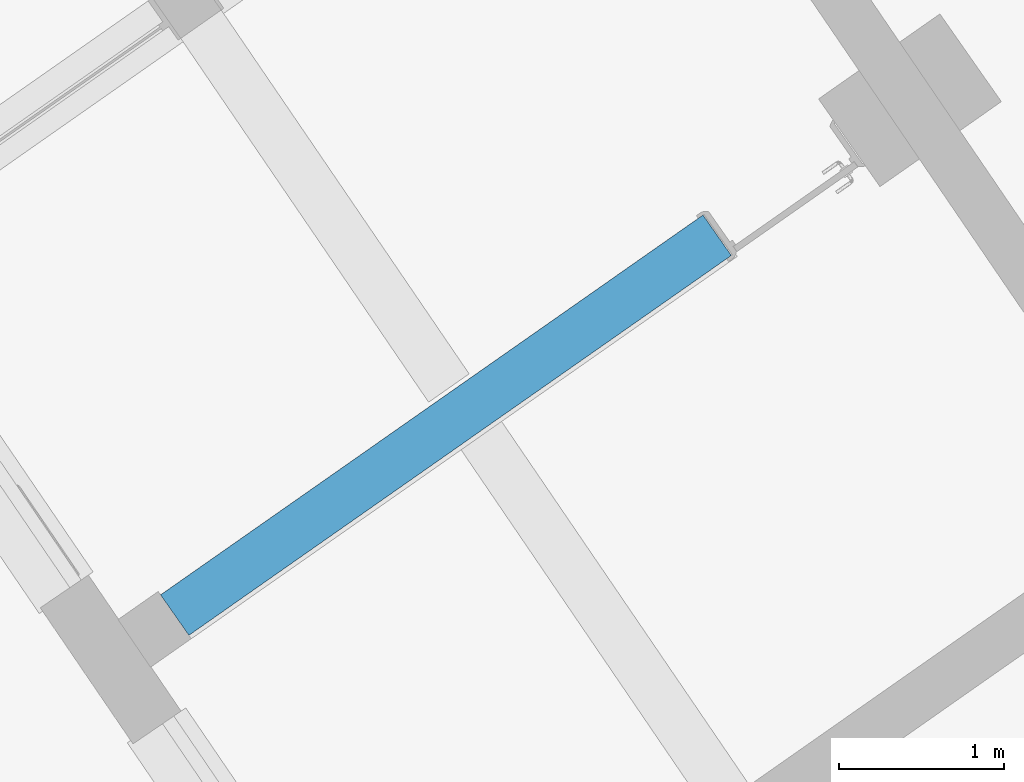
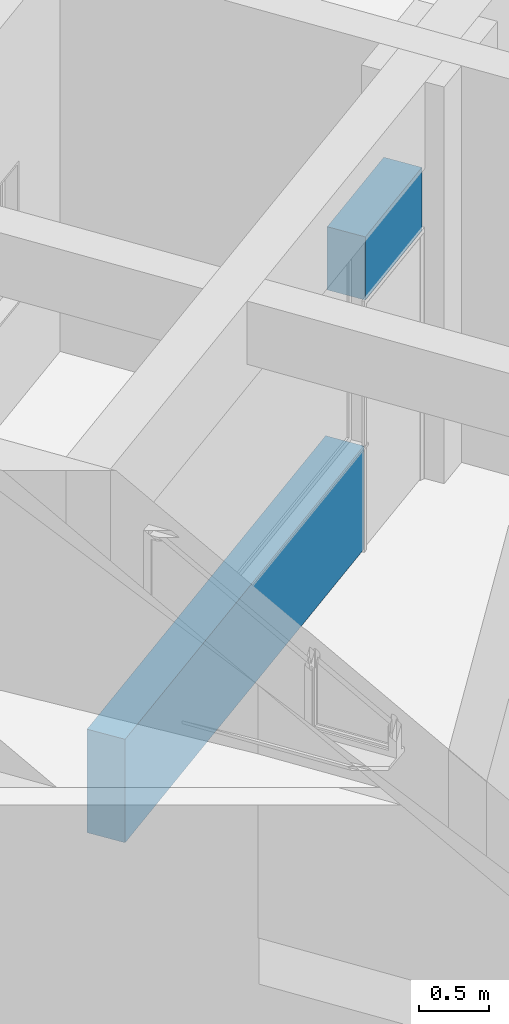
# One storey, part 58 of 112: 1 wall, 2 openings.
"""IFC2X3 building model written with IfcOpenShell, lengths in millimetres."""

from ifc_helpers import new_model, entity, si_unit, converted_unit, derived_unit, direction, frame, frame_2d, origin, place, context, subcontext, project, spatial, rectangle, extrude, material, layer, layer_set, layer_usage, type_object, element, save


model = new_model("IFC2X3")

# Units and contexts
model_context = context("Model", 3, precision=0.01, world=origin(), true_north=direction((6.123031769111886e-17, 1.0)))
body_context = subcontext(model_context, "Body", "Model", "MODEL_VIEW")
ifc_project = project(units=[si_unit("LENGTHUNIT", "METRE", prefix="MILLI"), si_unit("AREAUNIT", "SQUARE_METRE"), si_unit("VOLUMEUNIT", "CUBIC_METRE"), converted_unit("PLANEANGLEUNIT", "DEGREE", entity("IfcRatioMeasure", 0.017453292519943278), si_unit("PLANEANGLEUNIT", "RADIAN"), dimensions=[0, 0, 0, 0, 0, 0, 0]), si_unit("MASSUNIT", "GRAM", prefix="KILO"), derived_unit("MASSDENSITYUNIT", [(si_unit("MASSUNIT", "GRAM", prefix="KILO"), 1), (si_unit("LENGTHUNIT", "METRE"), -3)]), derived_unit("MOMENTOFINERTIAUNIT", [(si_unit("LENGTHUNIT", "METRE"), 4)]), si_unit("TIMEUNIT", "SECOND"), si_unit("FREQUENCYUNIT", "HERTZ"), si_unit("THERMODYNAMICTEMPERATUREUNIT", "DEGREE_CELSIUS"), derived_unit("THERMALTRANSMITTANCEUNIT", [(si_unit("MASSUNIT", "GRAM", prefix="KILO"), 1), (si_unit("THERMODYNAMICTEMPERATUREUNIT", "KELVIN"), -1), (si_unit("TIMEUNIT", "SECOND"), -3)]), derived_unit("THERMALCONDUCTANCEUNIT", [(si_unit("MASSUNIT", "GRAM", prefix="KILO"), 1), (si_unit("LENGTHUNIT", "METRE"), 1), (si_unit("THERMODYNAMICTEMPERATUREUNIT", "KELVIN"), -1), (si_unit("TIMEUNIT", "SECOND"), -3)]), derived_unit("VOLUMETRICFLOWRATEUNIT", [(si_unit("LENGTHUNIT", "METRE"), 3), (si_unit("TIMEUNIT", "SECOND"), -1)]), derived_unit("MASSFLOWRATEUNIT", [(si_unit("MASSUNIT", "GRAM", prefix="KILO"), 1), (si_unit("TIMEUNIT", "SECOND"), -1)]), derived_unit("ROTATIONALFREQUENCYUNIT", [(si_unit("TIMEUNIT", "SECOND"), -1)]), si_unit("ELECTRICCURRENTUNIT", "AMPERE"), si_unit("ELECTRICVOLTAGEUNIT", "VOLT"), si_unit("POWERUNIT", "WATT"), converted_unit("FORCEUNIT", "KIP", entity("IfcRatioMeasure", 2.088543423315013e-05), si_unit("FORCEUNIT", "NEWTON"), dimensions=[1, 1, -2, 0, 0, 0, 0]), si_unit("ILLUMINANCEUNIT", "LUX"), si_unit("LUMINOUSFLUXUNIT", "LUMEN"), si_unit("LUMINOUSINTENSITYUNIT", "CANDELA"), derived_unit("USERDEFINED", [(si_unit("MASSUNIT", "GRAM", prefix="KILO"), -1), (si_unit("LENGTHUNIT", "METRE"), -2), (si_unit("TIMEUNIT", "SECOND"), 3), (si_unit("LUMINOUSFLUXUNIT", "LUMEN"), 1)]), derived_unit("USERDEFINED", [(si_unit("MASSUNIT", "GRAM", prefix="KILO"), 1), (si_unit("LENGTHUNIT", "METRE"), 3), (si_unit("TIMEUNIT", "SECOND"), -3), (si_unit("ELECTRICCURRENTUNIT", "AMPERE"), -2)]), derived_unit("USERDEFINED", [(si_unit("LENGTHUNIT", "METRE"), 2), (si_unit("TIMEUNIT", "SECOND"), -2)]), derived_unit("SOUNDPOWERUNIT", [(si_unit("MASSUNIT", "GRAM", prefix="KILO"), 1), (si_unit("LENGTHUNIT", "METRE"), 2), (si_unit("TIMEUNIT", "SECOND"), -3)]), derived_unit("SOUNDPRESSUREUNIT", [(si_unit("MASSUNIT", "GRAM", prefix="KILO"), 1), (si_unit("LENGTHUNIT", "METRE"), -1), (si_unit("TIMEUNIT", "SECOND"), -2)]), derived_unit("LINEARVELOCITYUNIT", [(si_unit("LENGTHUNIT", "METRE"), 1), (si_unit("TIMEUNIT", "SECOND"), -1)]), si_unit("PRESSUREUNIT", "PASCAL"), derived_unit("USERDEFINED", [(si_unit("LENGTHUNIT", "METRE"), -2), (si_unit("MASSUNIT", "GRAM", prefix="KILO"), 1), (si_unit("TIMEUNIT", "SECOND"), -2)]), derived_unit("LINEARFORCEUNIT", [(si_unit("MASSUNIT", "GRAM", prefix="KILO"), 1), (si_unit("LENGTHUNIT", "METRE"), 1), (si_unit("TIMEUNIT", "SECOND"), -2), (si_unit("LENGTHUNIT", "METRE"), -1)]), derived_unit("PLANARFORCEUNIT", [(si_unit("MASSUNIT", "GRAM", prefix="KILO"), 1), (si_unit("LENGTHUNIT", "METRE"), 1), (si_unit("TIMEUNIT", "SECOND"), -2), (si_unit("LENGTHUNIT", "METRE"), -2)]), derived_unit("SPECIFICHEATCAPACITYUNIT", [(si_unit("LENGTHUNIT", "METRE"), 2), (si_unit("TIMEUNIT", "SECOND"), -2), (si_unit("THERMODYNAMICTEMPERATUREUNIT", "KELVIN"), -1)]), derived_unit("VAPORPERMEABILITYUNIT", [(si_unit("TIMEUNIT", "SECOND"), 1), (si_unit("LENGTHUNIT", "METRE"), -1)]), derived_unit("DYNAMICVISCOSITYUNIT", [(si_unit("MASSUNIT", "GRAM", prefix="KILO"), 1), (si_unit("LENGTHUNIT", "METRE"), -1), (si_unit("TIMEUNIT", "SECOND"), -1)]), derived_unit("THERMALEXPANSIONCOEFFICIENTUNIT", [(si_unit("THERMODYNAMICTEMPERATUREUNIT", "KELVIN"), -1)])], contexts=[model_context])

# Site, building, storey
site_placement = place(None, frame((0.0, 0.0, 0.0), z_axis=(0.0, 0.0, 1.0), x_axis=(0.8191520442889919, 0.5735764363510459, 0.0)))
site = spatial("IfcSite", under=ifc_project, at=site_placement, Name="Default", CompositionType="ELEMENT")
building_placement = place(site_placement, origin())
building = spatial("IfcBuilding", under=site, at=building_placement, CompositionType="ELEMENT")
storey_placement = place(building_placement, frame((0.0, 0.0, -3600.0)))
storey = spatial("IfcBuildingStorey", under=building, at=storey_placement, Name="0.UG -3.60", CompositionType="ELEMENT", Elevation=-3600.0000000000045)

# Wall, openings
ifc_material = material(Name="Analytical Wall Surface_CJC")
ifc_layer = layer(ifc_material, 300.0)
ifc_layer_set = layer_set([ifc_layer], Name="Basic Wall:Wand_Innen_30")
ifc_layer_usage = layer_usage(ifc_layer_set, "AXIS2", "POSITIVE", -150.0)
wall_type = type_object("IfcWallType", Name="Basic Wall:Wand_Innen_30", PredefinedType="STANDARD", material=ifc_layer_set)
wall_placement = place(storey_placement, frame((-222295.46807251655, 127696.3589143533, 0.0)))
wall = element("IfcWallStandardCase", 1, at=wall_placement, inside=storey, type_object=wall_type, material=ifc_layer_usage, Name="Basic Wall:Wand_Innen_30", ObjectType="Basic Wall:Wand_Innen_30", context=body_context, shape_type="SweptSolid", body=[
    extrude(rectangle(XDim=5003.803250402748, YDim=300.00000000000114, at=frame_2d((2501.901625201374, -1.5489831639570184e-12), x_axis=(-1.0, 0.0))), origin(), (0.0, 0.0, 1.0), 2700.0),
])
opening_1_placement = place(wall_placement, frame((5003.803250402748, 150.0, 0.0)))
element("IfcOpeningElement", 2, at=opening_1_placement, cuts=wall, Name="Doors_IntSgl:90x210:1", ObjectType="Opening", context=body_context, shape_type="SweptSolid", body=[
    extrude(rectangle(XDim=2150.000000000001, YDim=979.9999999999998, at=frame_2d((1075.0000000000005, 489.9999999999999), x_axis=(1.0, 0.0))), frame((0.0, 0.0, 0.0), z_axis=(0.0, -1.0, 0.0), x_axis=(0.0, 0.0, 1.0)), (0.0, 0.0, 1.0), 300.0),
])
opening_2_placement = place(wall_placement, frame((4050.0, 150.0, 900.0)))
element("IfcOpeningElement", 3, at=opening_2_placement, cuts=wall, Name="M_Instance-Window-Fixed:508x270:1", ObjectType="Opening", context=body_context, shape_type="SweptSolid", body=[
    extrude(rectangle(XDim=1799.9999999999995, YDim=4049.9999999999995, at=frame_2d((899.9999999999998, 2024.9999999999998), x_axis=(-1.0, 0.0))), frame((0.0, 0.0, 0.0), z_axis=(0.0, -1.0, 0.0), x_axis=(0.0, 0.0, 1.0)), (0.0, 0.0, 1.0), 300.0),
])

save(model, "model.ifc")
